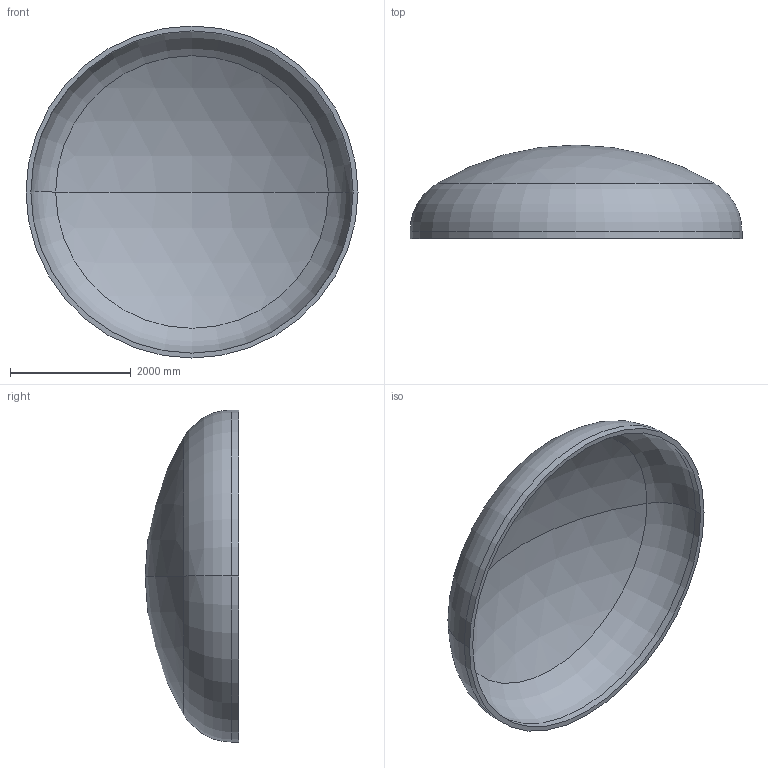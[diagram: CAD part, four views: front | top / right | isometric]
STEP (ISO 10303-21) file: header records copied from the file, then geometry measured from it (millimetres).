
FILE_DESCRIPTION (( 'STEP AP203' ), '1' );
FILE_NAME ('DIN 28013 Korbbogenform_-_Boden DIN 28013 - 5500 x 120 - I - s=80.step', '2016-07-04T10:34:51', ( '' ), ( '' ), 'SwSTEP 2.0', 'SolidWorks 2013', '' );
FILE_SCHEMA (( 'CONFIG_CONTROL_DESIGN' ));
Length unit declared in the file: millimetre
Products named in the file (1): DIN 28013 Korbbogenform_-_Boden DIN 28013 - 5500 x 120 - I - s=80
Bounding box: 5500 x 1549.2 x 5500 mm (x, y, z)
Volume: 2744559108.4 mm3; surface area: 69989551 mm2
Topology: 1 solids, 1 shells, 13 faces, 24 edges, 14 vertices
Faces by surface type: torus 4, cylinder 4, sphere 4, plane 1
Entity records: 407 total; most frequent: DIRECTION 72, CARTESIAN_POINT 52, ORIENTED_EDGE 48, AXIS2_PLACEMENT_3D 34, EDGE_CURVE 24, CIRCLE 20, VERTEX_POINT 14, EDGE_LOOP 14
